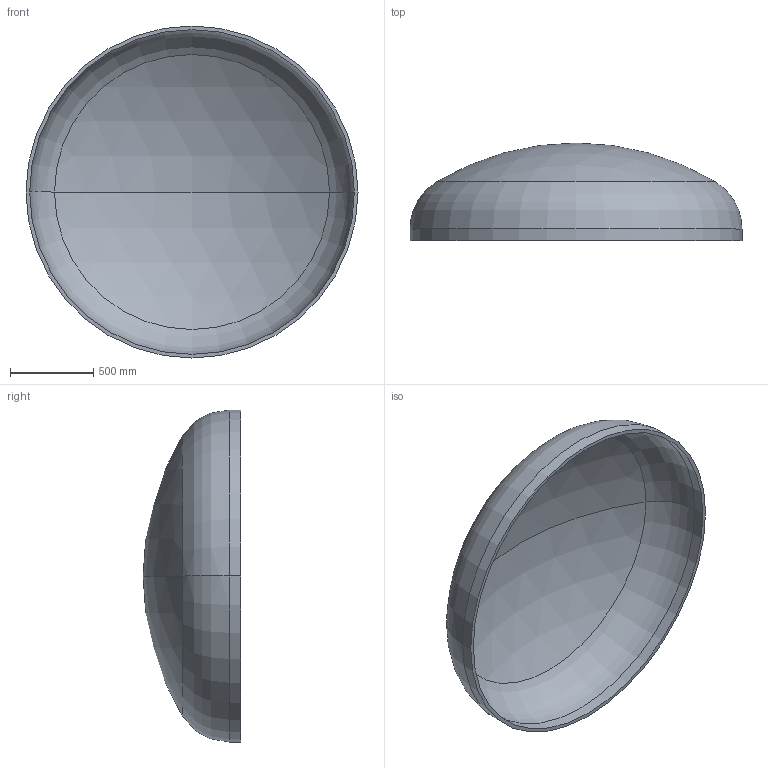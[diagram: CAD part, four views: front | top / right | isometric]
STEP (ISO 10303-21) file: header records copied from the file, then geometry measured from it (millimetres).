
FILE_DESCRIPTION (( 'STEP AP203' ), '1' );
FILE_NAME ('DIN 28013 Korbbogenform_-_Boden DIN 28013 - 2000 x 70 - I - s=22.step', '2016-07-01T13:42:18', ( '' ), ( '' ), 'SwSTEP 2.0', 'SolidWorks 2013', '' );
FILE_SCHEMA (( 'CONFIG_CONTROL_DESIGN' ));
Length unit declared in the file: millimetre
Products named in the file (1): DIN 28013 Korbbogenform_-_Boden DIN 28013 - 2000 x 70 - I - s=22
Bounding box: 2000 x 588.43 x 2000 mm (x, y, z)
Volume: 104030941.8 mm3; surface area: 9595078.2 mm2
Topology: 1 solids, 1 shells, 13 faces, 24 edges, 14 vertices
Faces by surface type: torus 4, cylinder 4, sphere 4, plane 1
Entity records: 407 total; most frequent: DIRECTION 72, CARTESIAN_POINT 52, ORIENTED_EDGE 48, AXIS2_PLACEMENT_3D 34, EDGE_CURVE 24, CIRCLE 20, VERTEX_POINT 14, EDGE_LOOP 14
